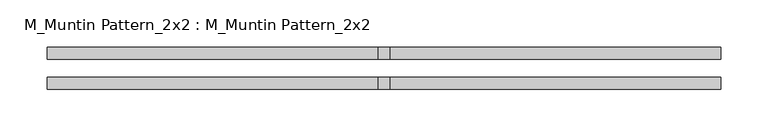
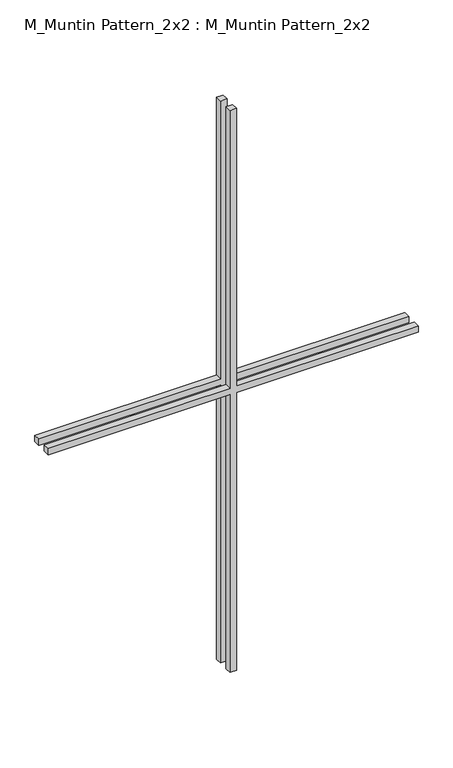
"""IFC4 building model written with IfcOpenShell, lengths in millimetres: proxy geometry, M_Muntin Pattern_2x2 : M_Muntin Pattern_2x2."""

from ifc_helpers import new_model, si_unit, frame, origin, place, context, project, spatial, polyline, outline, extrude, source, transform, mapped, element, save


def m_muntin_pattern_2x2_m_muntin_pattern_2x2_200aa1b4(model_context):
    return source(origin(), model_context, "Body", "SweptSolid", [
        extrude(outline(polyline([(579.0, -6.35), (579.0, -356.7375), (566.3, -356.7375), (566.3, -6.35), (0.0, -6.35), (0.0, 6.35), (566.3, 6.35), (566.3, 356.7375), (579.0, 356.7375), (579.0, 6.35), (1145.3, 6.35), (1145.3, -6.35), (579.0, -6.35)])), frame((0.0, 9.525, 0.0), z_axis=(0.0, 1.0, 0.0), x_axis=(0.0, 0.0, 1.0)), (0.0, 0.0, 1.0), 12.7),
        extrude(outline(polyline([(579.0, -6.35), (579.0, -356.7375), (566.3, -356.7375), (566.3, -6.35), (0.0, -6.35), (0.0, 6.35), (566.3, 6.35), (566.3, 356.7375), (579.0, 356.7375), (579.0, 6.35), (1145.3, 6.35), (1145.3, -6.35), (579.0, -6.35)])), frame((0.0, -22.225, 0.0), z_axis=(0.0, 1.0, 0.0), x_axis=(0.0, 0.0, 1.0)), (0.0, 0.0, 1.0), 12.7),
    ])


if __name__ == "__main__":
    model = new_model("IFC4")
    model_context = context("Model", 3, world=origin())
    ifc_project = project(units=[si_unit("LENGTHUNIT", "METRE", prefix="MILLI")], contexts=[model_context])
    site = spatial("IfcSite", under=ifc_project)
    building = spatial("IfcBuilding", under=site)
    placement = place(None, origin())
    m_muntin_pattern_2x2_m_muntin_pattern_2x2_shape = m_muntin_pattern_2x2_m_muntin_pattern_2x2_200aa1b4(model_context)
    element("IfcBuildingElementProxy", 1, Name="M_Muntin Pattern_2x2 : M_Muntin Pattern_2x2", ObjectType="M_Muntin Pattern_2x2 : M_Muntin Pattern_2x2", at=placement, inside=building, context=model_context, shape_type="MappedRepresentation", body=[
        mapped(m_muntin_pattern_2x2_m_muntin_pattern_2x2_shape, transform((0.0, 0.0, 0.0), x_axis=(1.0, 0.0, 0.0), y_axis=(0.0, 1.0, 0.0), z_axis=(0.0, 0.0, 1.0))),
    ])
    save(model, "model.ifc")
